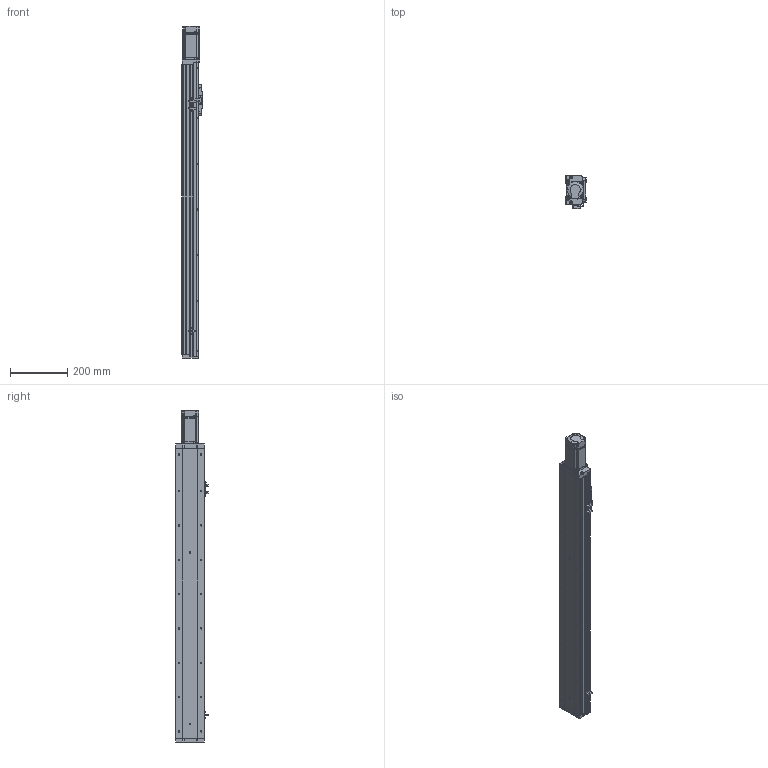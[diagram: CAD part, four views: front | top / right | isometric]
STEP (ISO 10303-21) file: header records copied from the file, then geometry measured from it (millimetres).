
FILE_DESCRIPTION (( 'STEP AP214' ), '1' );
FILE_NAME ('KSD100S-S800-MN-CR.STEP', '2019-09-02T09:34:42', ( '微软用户' ), ( '微软中国' ), 'SwSTEP 2.0', 'SolidWorks 2014', '' );
FILE_SCHEMA (( 'AUTOMOTIVE_DESIGN' ));
Length unit declared in the file: millimetre
Products named in the file (12): 100宽侧板800行程不带电机座; 100宽底板全封闭800行程不带电机座; KSD100S-S800-MN-CR; 100宽盖板800行程不带电机座; MHMD042G1CA_2_03; U倰嫖萇EEㄜSX672; 感应片100宽全封闭; 100宽马达安装板全封闭不带电机座; 100宽端板全封闭; 100宽滚珠螺姆安装板1防护罩; 100宽滚珠螺姆安装板1; 100宽盖板压板不带电机座
Assembly tree (15 placements, depth 2):
  KSD100S-S800-MN-CR
    100宽底板全封闭800行程不带电机座
    100宽侧板800行程不带电机座  x2
    100宽盖板800行程不带电机座
    100宽盖板压板不带电机座  x2
    100宽滚珠螺姆安装板1
    100宽滚珠螺姆安装板1防护罩
    100宽端板全封闭
    100宽马达安装板全封闭不带电机座
    感应片100宽全封闭
    U倰嫖萇EEㄜSX672  x3
    MHMD042G1CA_2_03
Bounding box: 70 x 113.7 x 1160.5 mm (x, y, z)
Volume: 2033709.2 mm3; surface area: 894816.6 mm2
Topology: 14 solids, 15 shells, 1596 faces, 4474 edges, 2842 vertices
Faces by surface type: cylinder 677, plane 660, cone 241, bspline 18
Entity records: 54494 total; most frequent: CARTESIAN_POINT 8563, DIRECTION 7455, ORIENTED_EDGE 6920, EDGE_CURVE 3532, AXIS2_PLACEMENT_3D 2662, VERTEX_POINT 2340, VECTOR 2131, LINE 2131
